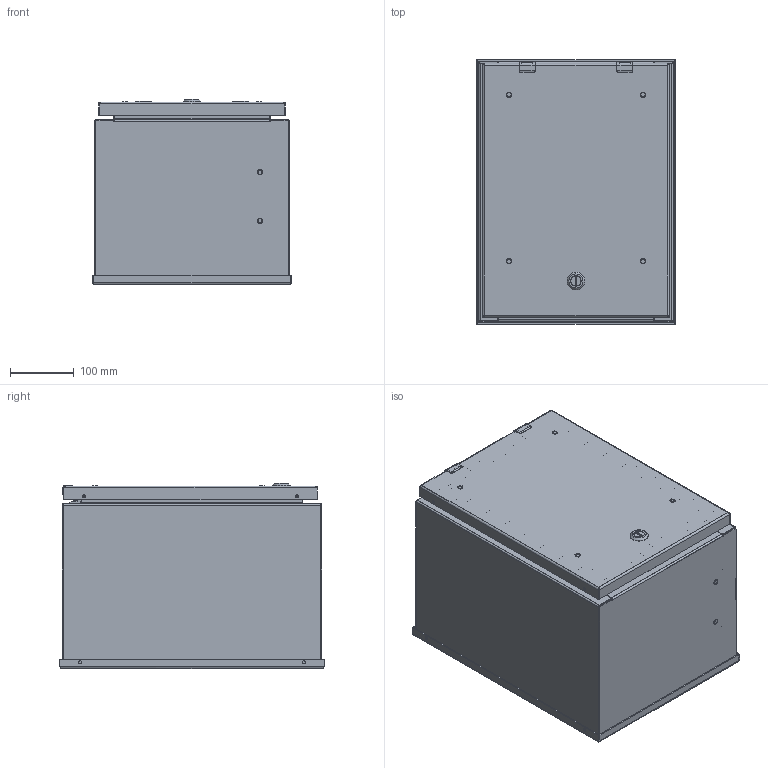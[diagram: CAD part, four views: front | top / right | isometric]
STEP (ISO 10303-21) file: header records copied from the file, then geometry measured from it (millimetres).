
FILE_DESCRIPTION((''),'2;1');
FILE_NAME('MODEL-363_ASM','2026-08-25T09:43:56',('andrew.knowlton'),('SAGINAW CONTROL & ENGINEERING'),'CREO PARAMETRIC BY PTC INC, 2021284','CREO PARAMETRIC BY PTC INC, 2021284','');
FILE_SCHEMA(('AUTOMOTIVE_DESIGN { 1 0 10303 214 1 1 1 1 }'));
Length unit declared in the file: inch
Products named in the file (33): MODEL-363-BDY; MODEL-363-R-SIDE; MODEL-363-L-SIDE; MODEL-363-R-DR; 126391; 126391_ASM; 126393; 101226; 101376; 102483; 102140; 132757; 100057; 100794_SHAFT; 100794_INSERT; 100794_CAM; 100794_NUT; 100794_SCREW; 100794_ASM; MODEL-363-PR-GSKT-R; 127573; 100009; 122255; 127497; 100882; MODEL-363-F-DR; MODEL-363-PR-GSKT-F; 100837; 125597; CH-ELJ_SUBPANEL; 102479; CH-ELJ_SUBPANEL-SUBASSEMBLY_ASM; MODEL-363_ASM
Assembly tree (80 placements, depth 3):
  MODEL-363_ASM
    MODEL-363-BDY
    MODEL-363-R-SIDE
    MODEL-363-L-SIDE
    MODEL-363-R-DR
    126391_ASM  x2
      126391
    126393  x2
    101226  x2
    101376  x2
    102483  x6
    102140  x2
    132757  x2
    100057  x9
    100794_ASM
      100794_SHAFT
      100794_INSERT
      100794_CAM
      100794_NUT
      100794_SCREW
    MODEL-363-PR-GSKT-R
    127573
    100009  x4
    122255
    127497  x2
    100882  x16
    MODEL-363-F-DR
    MODEL-363-PR-GSKT-F
    100837  x8
    125597
    CH-ELJ_SUBPANEL-SUBASSEMBLY_ASM
      CH-ELJ_SUBPANEL
      102479  x4
Bounding box: 311.66 x 413.26 x 289.45 mm (x, y, z)
Volume: 1941821 mm3; surface area: 1926942.6 mm2
Topology: 78 solids, 78 shells, 6340 faces, 16943 edges, 10734 vertices
Faces by surface type: bspline 2488, plane 2336, cylinder 1041, torus 245, cone 210, sphere 20
Entity records: 96988 total; most frequent: CARTESIAN_POINT 27612, ORIENTED_EDGE 9952, DIRECTION 9427, PRESENTATION_STYLE_ASSIGNMENT 5181, EDGE_CURVE 4976, STYLED_ITEM 4904, CURVE_STYLE 4814, AXIS2_PLACEMENT_3D 3407
